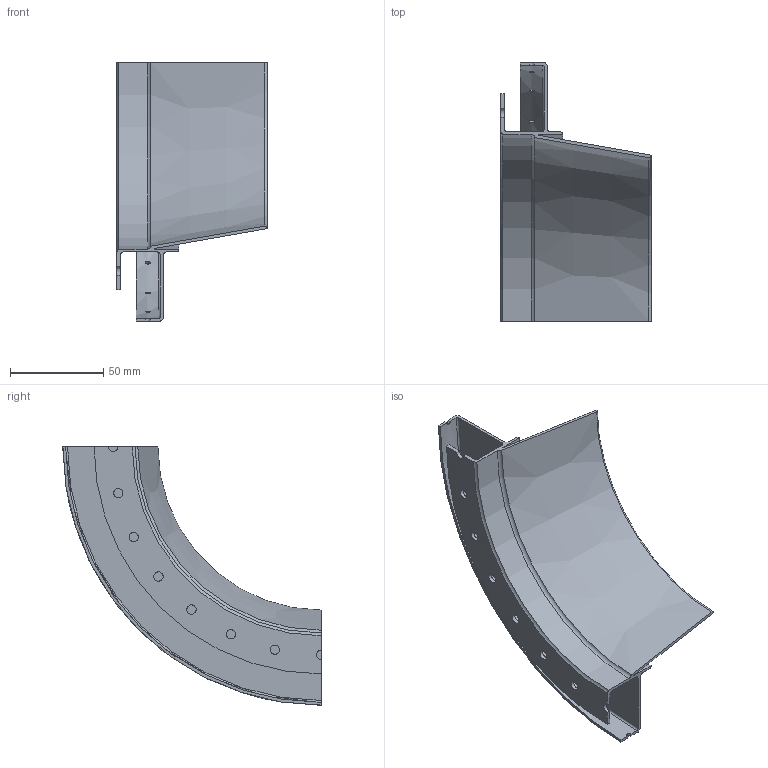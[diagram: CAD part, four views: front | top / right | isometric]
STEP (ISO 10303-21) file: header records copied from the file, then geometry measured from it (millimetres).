
FILE_DESCRIPTION(/* description */ (''),/* implementation_level */ '2;1');
FILE_NAME(/* name */ 'solflans.step',/* time_stamp */ '2023-10-29T00:34:29+03:00',/* author */ (''),/* organization */ (''),/* preprocessor_version */ 'ST-DEVELOPER v20',/* originating_system */ 'Autodesk Translation Framework v12.14.0.127',/* authorisation */ '');
FILE_SCHEMA (('AUTOMOTIVE_DESIGN { 1 0 10303 214 3 1 1 }'));
Length unit declared in the file: millimetre
Products named in the file (1): FusionComponent
Bounding box: 80.91 x 138.75 x 138.75 mm (x, y, z)
Volume: 43747.2 mm3; surface area: 56075.3 mm2
Topology: 1 solids, 1 shells, 49 faces, 153 edges, 106 vertices
Faces by surface type: cylinder 23, plane 13, torus 9, cone 3, bspline 1
Full cylindrical faces by diameter (mm): 2.5 x6, 5 x6
Entity records: 2343 total; most frequent: CARTESIAN_POINT 886, ORIENTED_EDGE 306, DIRECTION 280, EDGE_CURVE 153, AXIS2_PLACEMENT_3D 109, VERTEX_POINT 106, EDGE_LOOP 73, LINE 62
